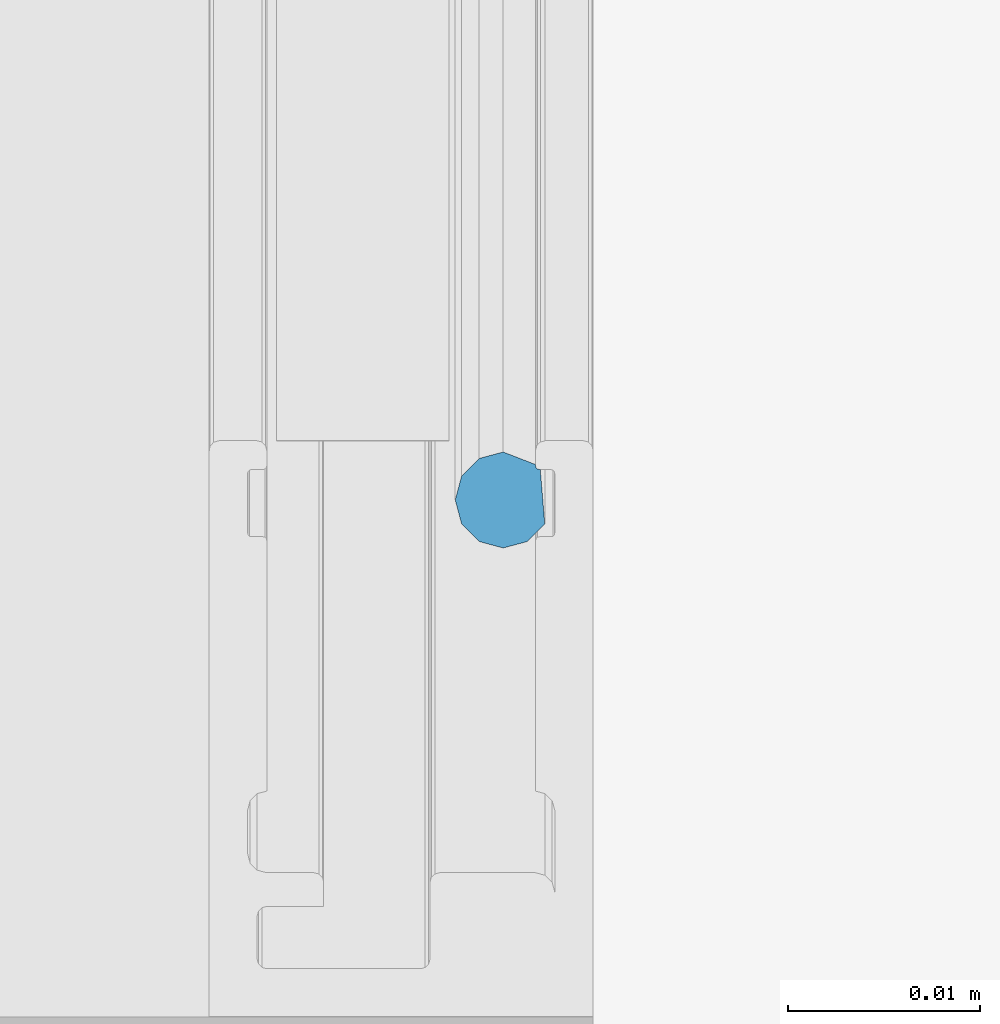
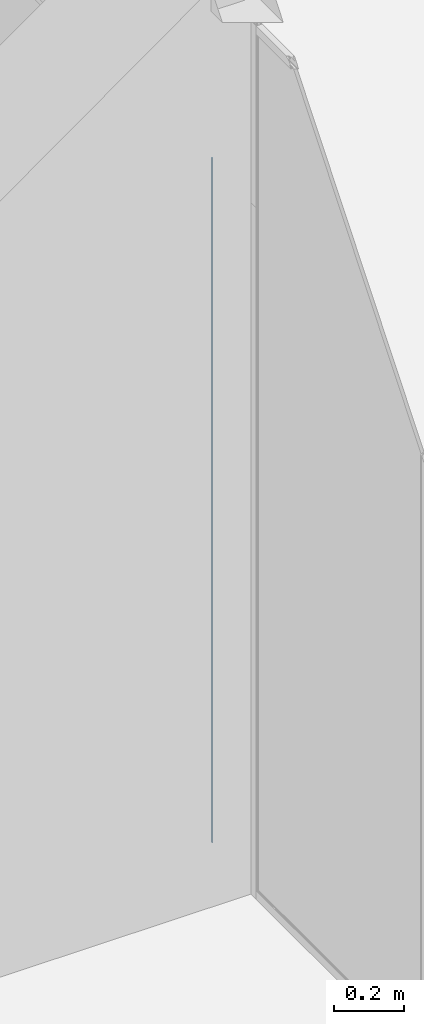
# One storey, part 61 of 387: 1 building element part, 2 elements without a shape of their own.
"""IFC2X3 building model written with IfcOpenShell, lengths in millimetres."""

from ifc_helpers import new_model, entity, si_unit, converted_unit, derived_unit, money_unit, direction, frame, origin_with_axes, place, context, subcontext, project, spatial, faceted_brep, source, transform, mapped, material, type_object, element, aggregate, save


model = new_model("IFC2X3")

# Units and contexts
model_context = context("Model", 3, precision=0.01, world=origin_with_axes(), true_north=direction((0.0, 1.0)))
body_context = subcontext(model_context, "Body", "Model", "MODEL_VIEW")
ifc_project = project(units=[si_unit("LENGTHUNIT", "METRE", prefix="MILLI"), si_unit("AREAUNIT", "SQUARE_METRE"), si_unit("VOLUMEUNIT", "CUBIC_METRE"), converted_unit("PLANEANGLEUNIT", "DEGREE", entity("IfcPlaneAngleMeasure", 0.0174532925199), si_unit("PLANEANGLEUNIT", "RADIAN"), dimensions=[0, 0, 0, 0, 0, 0, 0]), si_unit("SOLIDANGLEUNIT", "STERADIAN"), money_unit("EUR"), converted_unit("TIMEUNIT", "Year", entity("IfcTimeMeasure", 31556926.0), si_unit("TIMEUNIT", "SECOND"), dimensions=[0, 0, 1, 0, 0, 0, 0]), si_unit("MASSUNIT", "GRAM", prefix="KILO"), si_unit("THERMODYNAMICTEMPERATUREUNIT", "DEGREE_CELSIUS"), si_unit("LUMINOUSINTENSITYUNIT", "LUMEN"), si_unit("ENERGYUNIT", "JOULE", prefix="MEGA"), derived_unit("THERMALCONDUCTANCEUNIT", [(si_unit("POWERUNIT", "WATT"), 1), (si_unit("LENGTHUNIT", "METRE"), -1), (si_unit("THERMODYNAMICTEMPERATUREUNIT", "KELVIN"), -1)]), derived_unit("SPECIFICHEATCAPACITYUNIT", [(si_unit("ENERGYUNIT", "JOULE"), 1), (si_unit("MASSUNIT", "GRAM", prefix="KILO"), -1), (si_unit("THERMODYNAMICTEMPERATUREUNIT", "KELVIN"), -1)]), derived_unit("MASSDENSITYUNIT", [(si_unit("MASSUNIT", "GRAM", prefix="KILO"), 1), (si_unit("VOLUMEUNIT", "CUBIC_METRE"), -1)])], contexts=[model_context])

# Site, building, storey
site_placement = place(None, origin_with_axes())
site = spatial("IfcSite", under=ifc_project, at=site_placement, Name="Puškini 31, Narva", CompositionType="ELEMENT")
building_placement = place(site_placement, origin_with_axes())
building = spatial("IfcBuilding", under=site, at=building_placement, Name="Narva Riigigümnaasium", CompositionType="ELEMENT")
storey_placement = place(building_placement, frame((0.0, 0.0, 2640.0), z_axis=(0.0, 0.0, 1.0), x_axis=(1.0, 0.0, 0.0)))
storey = spatial("IfcBuildingStorey", under=building, at=storey_placement, Name="2.korrus +2.64", CompositionType="ELEMENT", Elevation=2640.0)

# Curtain wall, member, building element part
curtain_wall_type = type_object("IfcCurtainWallType", Name="Curtain Wall Type", PredefinedType="NOTDEFINED")
curtain_wall_placement = place(storey_placement, frame((28390.0000002, 176724.161139, -5.42380846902e-05), z_axis=(0.0, 0.0, 1.0), x_axis=(1.0, 0.0, 0.0)))
curtain_wall = element("IfcCurtainWall", 1, at=curtain_wall_placement, inside=storey, type_object=curtain_wall_type, Name="G-SKLF-12")
member_type = type_object("IfcMemberType", Name="30 x 10", PredefinedType="MULLION")
member_placement = place(curtain_wall_placement, frame((1.72022396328e-08, -1114.16106877, 0.0), z_axis=(0.0, 5.71766621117e-08, 1.0), x_axis=(0.0, 1.0, -5.71766621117e-08)))
member = element("IfcMember", 2, at=member_placement, type_object=member_type, Name="G-SKLF-17-raam", ObjectType="MULLION")
aggregate(curtain_wall, [member])
ifc_material = material(Name="Membraan - Veekindel")
shared_shape = source(origin_with_axes(), body_context, "Body", "Brep", [
    faceted_brep([(-25.6641727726, 7.48000965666, 25.6641727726), (-28.5, 7.24760028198, 28.5), (-28.5, 7.24760028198, 2400.00001337), (-25.6641727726, 7.48000965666, 2400.00001337), (-24.7491092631, 6.56494614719, 24.7491092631), (-24.4141727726, 5.31494614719, 24.4141727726), (-24.7491092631, 4.06494614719, 24.7491092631), (-25.6641727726, 3.14988263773, 25.6641727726), (-26.9141727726, 2.81494614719, 26.9141727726), (-28.1641727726, 3.14988263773, 28.1641727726), (-29.079236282, 4.06494614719, 29.079236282), (-29.4141727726, 5.31494614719, 29.4141727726), (-28.7609519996, 6.99999999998, 28.7609519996), (-28.7, 6.99999999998, 28.7), (-28.6, 7.02679491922, 28.6), (-28.5267949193, 7.09999999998, 28.5267949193), (-28.5, 7.19999999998, 28.5), (-28.5, 7.19999999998, 2400.00001337), (-28.5267949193, 7.09999999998, 2400.00001337), (-28.6, 7.02679491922, 2400.00001337), (-28.7, 6.99999999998, 2400.00001337), (-28.7609519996, 6.99999999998, 2400.00001337), (-29.4141727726, 5.31494614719, 2400.00001337), (-29.079236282, 4.06494614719, 2400.00001337), (-28.1641727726, 3.14988263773, 2400.00001337), (-26.9141727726, 2.81494614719, 2400.00001337), (-25.6641727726, 3.14988263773, 2400.00001337), (-24.7491092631, 4.06494614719, 2400.00001337), (-24.4141727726, 5.31494614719, 2400.00001337), (-24.7491092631, 6.56494614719, 2400.00001337)], [[[0, 1, 2, 3]], [[1, 0, 4, 5, 6, 7, 8, 9, 10, 11, 12, 13, 14, 15, 16]], [[1, 16, 17, 2]], [[2, 17, 18, 19, 20, 21, 22, 23, 24, 25, 26, 27, 28, 29, 3]], [[4, 0, 3, 29]], [[5, 4, 29, 28]], [[6, 5, 28, 27]], [[7, 6, 27, 26]], [[8, 7, 26, 25]], [[9, 8, 25, 24]], [[10, 9, 24, 23]], [[11, 10, 23, 22]], [[12, 11, 22, 21]], [[13, 12, 21, 20]], [[14, 13, 20, 19]], [[15, 14, 19, 18]], [[16, 15, 18, 17]]]),
])
building_element_part_placement = place(member_placement, origin_with_axes())
building_element_part = element("IfcBuildingElementPart", 3, at=building_element_part_placement, material=ifc_material, Name="Membraan - Veekindel", context=body_context, shape_type="MappedRepresentation", body=[
    mapped(shared_shape, transform((0.0, 0.0, 0.0), x_axis=(-1.0, 0.0, -5.71766621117e-08), y_axis=(0.0, -1.0, 0.0), z_axis=(-5.71766621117e-08, 0.0, 1.0))),
])
aggregate(member, [building_element_part])

save(model, "model.ifc")
